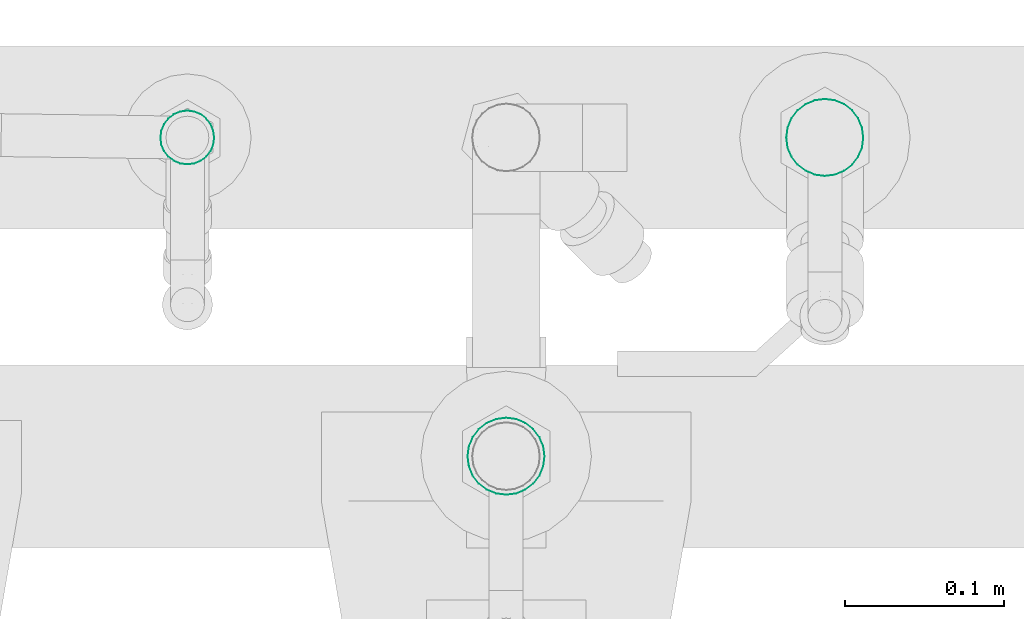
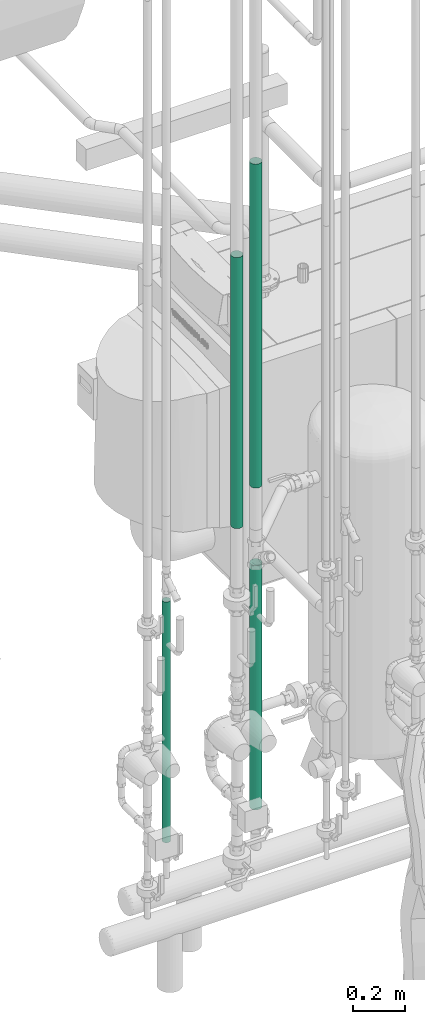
# One storey, part 203 of 374: 4 flow segments.
"""IFC2X3 building model written with IfcOpenShell, lengths in metres."""

from ifc_helpers import new_model, si_unit, direction, origin, place, context, subcontext, project, spatial, open_shell, surface_model, source, transform, mapped, element, save


model = new_model("IFC2X3")

# Units and contexts
model_context = context("Model", 3, precision=1e-05, world=origin(), true_north=direction((-0.4480736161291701, 0.8939966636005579)))
body_context = subcontext(model_context, "Body", "Model", "MODEL_VIEW")
ifc_project = project(units=[si_unit("LENGTHUNIT", "METRE"), si_unit("AREAUNIT", "SQUARE_METRE"), si_unit("VOLUMEUNIT", "CUBIC_METRE"), si_unit("PLANEANGLEUNIT", "RADIAN"), si_unit("THERMODYNAMICTEMPERATUREUNIT", "KELVIN"), si_unit("MASSUNIT", "GRAM", prefix="KILO"), si_unit("TIMEUNIT", "SECOND")], contexts=[model_context])

# Site, building, storey
site_placement = place(None, origin())
site = spatial("IfcSite", under=ifc_project, at=site_placement, Name="Site 1", CompositionType="ELEMENT")
building_placement = place(site_placement, origin())
building = spatial("IfcBuilding", under=site, at=building_placement, Name="Undefined", CompositionType="ELEMENT")
storey_placement = place(building_placement, origin())
storey = spatial("IfcBuildingStorey", under=building, at=storey_placement, Name="Rez de chauss\x8ee", CompositionType="ELEMENT", Elevation=0.0)

# Flow segments
shared_shape_1 = source(origin(), body_context, "Body", "SurfaceModel", [
    surface_model("IfcFaceBasedSurfaceModel", [(0.0, 0.004398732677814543, 0.0), (0.0, 0.0, 0.0), (1.1372338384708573, 8.8817842e-16, 7.105427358e-15), (1.1372338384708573, 0.004398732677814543, 0.0), (0.0, -0.004248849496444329, -0.00113847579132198), (1.1372338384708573, -0.004248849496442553, -0.001138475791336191), (0.0, -0.008058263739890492, -0.003337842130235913), (1.1372338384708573, -0.008058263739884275, -0.003337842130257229), (0.0, -0.01116863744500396, -0.0064482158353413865), (1.1372338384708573, -0.011168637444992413, -0.006448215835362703), (0.0, -0.013368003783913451, -0.010257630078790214), (1.1372338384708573, -0.013368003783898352, -0.010257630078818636), (0.0, -0.014506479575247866, -0.014506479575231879), (1.1372338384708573, -0.014506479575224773, -0.0145064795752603), (0.0, -0.01450647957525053, -0.01890521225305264), (1.1372338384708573, -0.01450647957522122, -0.01890521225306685), (0.0, -0.013368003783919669, -0.023154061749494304), (1.1372338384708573, -0.013368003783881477, -0.023154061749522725), (0.0, -0.011168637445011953, -0.02696347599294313), (1.1372338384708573, -0.011168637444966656, -0.026963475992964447), (0.0, -0.008058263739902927, -0.03007384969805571), (1.1372338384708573, -0.008058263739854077, -0.030073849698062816), (0.0, -0.004248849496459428, -0.03227321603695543), (1.1372338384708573, -0.004248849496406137, -0.03227321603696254), (0.0, -1.5099033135e-14, -0.03341169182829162), (1.1372338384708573, 3.8191672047e-14, -0.03341169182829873), (0.0, 0.00439873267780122, -0.03341169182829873), (1.1372338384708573, 0.004398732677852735, -0.03341169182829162), (0.0, 0.008647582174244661, -0.03227321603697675), (1.1372338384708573, 0.008647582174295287, -0.03227321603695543), (0.0, 0.012456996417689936, -0.030073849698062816), (1.1372338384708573, 0.01245699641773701, -0.0300738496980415), (0.0, 0.01556737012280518, -0.026963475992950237), (1.1372338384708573, 0.015567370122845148, -0.026963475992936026), (0.0, 0.017766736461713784, -0.023154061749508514), (1.1372338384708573, 0.0177667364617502, -0.023154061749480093), (0.0, 0.018905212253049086, -0.01890521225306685), (1.1372338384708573, 0.018905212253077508, -0.018905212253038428), (0.0, 0.018905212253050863, -0.01450647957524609), (1.1372338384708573, 0.018905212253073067, -0.014506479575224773), (0.0, 0.01776673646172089, -0.01025763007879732), (1.1372338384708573, 0.01776673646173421, -0.010257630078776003), (0.0, 0.015567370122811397, -0.006448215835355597), (1.1372338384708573, 0.01556737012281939, -0.006448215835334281), (0.0, 0.012456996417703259, -0.0033378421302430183), (1.1372338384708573, 0.012456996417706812, -0.0033378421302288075), (0.0, 0.00864758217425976, -0.0011384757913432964), (1.1372338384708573, 0.00864758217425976, -0.00113847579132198)], [open_shell([[[0, 1, 2, 3]], [[1, 4, 5, 2]], [[4, 6, 7, 5]], [[6, 8, 9, 7]], [[8, 10, 11, 9]], [[10, 12, 13, 11]], [[12, 14, 15, 13]], [[14, 16, 17, 15]], [[16, 18, 19, 17]], [[18, 20, 21, 19]], [[20, 22, 23, 21]], [[22, 24, 25, 23]], [[24, 26, 27, 25]], [[26, 28, 29, 27]], [[28, 30, 31, 29]], [[30, 32, 33, 31]], [[32, 34, 35, 33]], [[34, 36, 37, 35]], [[36, 38, 39, 37]], [[38, 40, 41, 39]], [[40, 42, 43, 41]], [[42, 44, 45, 43]], [[44, 46, 47, 45]], [[46, 0, 3, 47]]])]),
])
flow_segment_1_placement = place(storey_placement, origin())
element("IfcFlowSegment", 1, at=flow_segment_1_placement, inside=storey, Name="Tube acier d'après DIN 2448", ObjectType="Tube acier d'après DIN 2448", context=body_context, shape_type="MappedRepresentation", body=[
    mapped(shared_shape_1, transform((52.27383786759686, 10.922398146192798, 0.5285500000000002), x_axis=(0.0, 0.0, 1.0), y_axis=(0.13052619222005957, -0.9914448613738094, 0.0), z_axis=(0.9914448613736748, 0.13052619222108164, 0.0))),
])
shared_shape_2 = source(origin(), body_context, "Body", "SurfaceModel", [
    surface_model("IfcFaceBasedSurfaceModel", [(0.0, 0.006304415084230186, 7.105427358e-15), (0.0, 0.0, 0.0), (1.1545185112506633, 0.0, 0.0), (1.1545185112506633, 0.006304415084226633, 0.0), (0.0, -0.006089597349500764, -0.0016317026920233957), (1.1545185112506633, -0.0060895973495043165, -0.0016317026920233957), (0.0, -0.011549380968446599, -0.004783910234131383), (1.1545185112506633, -0.011549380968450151, -0.004783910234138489), (0.0, -0.016007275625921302, -0.009241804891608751), (1.1545185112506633, -0.01600727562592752, -0.009241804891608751), (0.0, -0.01915948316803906, -0.014701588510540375), (1.1545185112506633, -0.019159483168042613, -0.01470158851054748), (0.0, -0.020791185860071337, -0.020791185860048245), (1.1545185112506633, -0.020791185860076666, -0.020791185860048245), (0.0, -0.020791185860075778, -0.027095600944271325), (1.1545185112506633, -0.02079118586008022, -0.02709560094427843), (0.0, -0.01915948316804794, -0.03318519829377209), (1.1545185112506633, -0.01915948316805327, -0.033185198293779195), (0.0, -0.01600727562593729, -0.038644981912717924), (1.1545185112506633, -0.01600727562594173, -0.038644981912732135), (0.0, -0.011549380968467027, -0.0431028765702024), (1.1545185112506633, -0.01154938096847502, -0.0431028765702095), (0.0, -0.006089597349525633, -0.04625508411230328), (1.1545185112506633, -0.0060895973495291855, -0.046255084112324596), (0.0, -2.4868995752e-14, -0.04788678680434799), (1.1545185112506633, -2.842170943e-14, -0.0478867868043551), (0.0, 0.006304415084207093, -0.047886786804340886), (1.1545185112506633, 0.006304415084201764, -0.0478867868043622), (0.0, 0.012394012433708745, -0.046255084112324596), (1.1545185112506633, 0.01239401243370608, -0.04625508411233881), (0.0, 0.01785379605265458, -0.0431028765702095), (1.1545185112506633, 0.017853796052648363, -0.043102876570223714), (0.0, 0.022311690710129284, -0.03864498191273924), (1.1545185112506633, 0.02231169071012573, -0.038644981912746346), (0.0, 0.02546389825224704, -0.03318519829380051), (1.1545185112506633, 0.025463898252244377, -0.033185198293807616), (0.0, 0.02709560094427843, -0.027095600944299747), (1.1545185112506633, 0.027095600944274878, -0.027095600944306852), (0.0, 0.02709560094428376, -0.02079118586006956), (1.1545185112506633, 0.027095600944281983, -0.020791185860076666), (0.0, 0.025463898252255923, -0.014701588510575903), (1.1545185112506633, 0.025463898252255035, -0.014701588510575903), (0.0, 0.02231169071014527, -0.009241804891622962), (1.1545185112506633, 0.022311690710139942, -0.009241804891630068), (0.0, 0.01785379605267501, -0.004783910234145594), (1.1545185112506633, 0.017853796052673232, -0.0047839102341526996), (0.0, 0.012394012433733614, -0.0016317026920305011), (1.1545185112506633, 0.012394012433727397, -0.0016317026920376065)], [open_shell([[[0, 1, 2, 3]], [[1, 4, 5, 2]], [[4, 6, 7, 5]], [[6, 8, 9, 7]], [[8, 10, 11, 9]], [[10, 12, 13, 11]], [[12, 14, 15, 13]], [[14, 16, 17, 15]], [[16, 18, 19, 17]], [[18, 20, 21, 19]], [[20, 22, 23, 21]], [[22, 24, 25, 23]], [[24, 26, 27, 25]], [[26, 28, 29, 27]], [[28, 30, 31, 29]], [[30, 32, 33, 31]], [[32, 34, 35, 33]], [[34, 36, 37, 35]], [[36, 38, 39, 37]], [[38, 40, 41, 39]], [[40, 42, 43, 41]], [[42, 44, 45, 43]], [[44, 46, 47, 45]], [[46, 0, 3, 47]]])]),
])
flow_segment_2_placement = place(storey_placement, origin())
element("IfcFlowSegment", 2, at=flow_segment_2_placement, inside=storey, Name="Tube acier d'après DIN 2448", ObjectType="Tube acier d'après DIN 2448", context=body_context, shape_type="MappedRepresentation", body=[
    mapped(shared_shape_2, transform((52.63423490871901, 10.924287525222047, 1.7034685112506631), x_axis=(0.0, 0.0, -1.0), y_axis=(-0.13052619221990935, -0.9914448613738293, 0.0), z_axis=(-0.9914448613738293, 0.13052619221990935, 0.0))),
])
shared_shape_3 = source(origin(), body_context, "Body", "SurfaceModel", [
    surface_model("IfcFaceBasedSurfaceModel", [(0.0, 0.006304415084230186, 7.105427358e-15), (0.0, 0.0, 0.0), (1.2806734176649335, 8.8817842e-16, 0.0), (1.2806734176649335, 0.006304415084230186, 7.105427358e-15), (0.0, -0.006089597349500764, -0.0016317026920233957), (1.2806734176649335, -0.006089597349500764, -0.0016317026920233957), (0.0, -0.011549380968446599, -0.004783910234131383), (1.2806734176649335, -0.011549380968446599, -0.004783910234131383), (0.0, -0.016007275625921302, -0.009241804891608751), (1.2806734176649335, -0.016007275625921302, -0.009241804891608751), (0.0, -0.01915948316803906, -0.014701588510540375), (1.2806734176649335, -0.01915948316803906, -0.014701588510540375), (0.0, -0.020791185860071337, -0.020791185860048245), (1.2806734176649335, -0.020791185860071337, -0.020791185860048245), (0.0, -0.020791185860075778, -0.027095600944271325), (1.2806734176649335, -0.020791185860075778, -0.027095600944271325), (0.0, -0.01915948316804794, -0.03318519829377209), (1.2806734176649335, -0.01915948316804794, -0.03318519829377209), (0.0, -0.01600727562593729, -0.038644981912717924), (1.2806734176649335, -0.01600727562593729, -0.038644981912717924), (0.0, -0.011549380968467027, -0.0431028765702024), (1.2806734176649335, -0.011549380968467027, -0.0431028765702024), (0.0, -0.006089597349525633, -0.04625508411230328), (1.2806734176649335, -0.006089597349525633, -0.04625508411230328), (0.0, -2.4868995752e-14, -0.04788678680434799), (1.2806734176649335, -2.4868995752e-14, -0.04788678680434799), (0.0, 0.006304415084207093, -0.047886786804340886), (1.2806734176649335, 0.006304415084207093, -0.047886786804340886), (0.0, 0.012394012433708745, -0.046255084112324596), (1.2806734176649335, 0.012394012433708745, -0.046255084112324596), (0.0, 0.01785379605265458, -0.0431028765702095), (1.2806734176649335, 0.01785379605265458, -0.0431028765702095), (0.0, 0.022311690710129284, -0.03864498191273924), (1.2806734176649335, 0.022311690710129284, -0.03864498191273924), (0.0, 0.02546389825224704, -0.03318519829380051), (1.2806734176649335, 0.02546389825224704, -0.03318519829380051), (0.0, 0.02709560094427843, -0.027095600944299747), (1.2806734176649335, 0.02709560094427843, -0.027095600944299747), (0.0, 0.02709560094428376, -0.02079118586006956), (1.2806734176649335, 0.02709560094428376, -0.02079118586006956), (0.0, 0.025463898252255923, -0.014701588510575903), (1.2806734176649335, 0.025463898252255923, -0.014701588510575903), (0.0, 0.02231169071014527, -0.009241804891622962), (1.2806734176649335, 0.02231169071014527, -0.009241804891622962), (0.0, 0.01785379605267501, -0.004783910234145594), (1.2806734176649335, 0.01785379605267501, -0.004783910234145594), (0.0, 0.012394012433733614, -0.0016317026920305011), (1.2806734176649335, 0.012394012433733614, -0.0016317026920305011)], [open_shell([[[0, 1, 2, 3]], [[1, 4, 5, 2]], [[4, 6, 7, 5]], [[6, 8, 9, 7]], [[8, 10, 11, 9]], [[10, 12, 13, 11]], [[12, 14, 15, 13]], [[14, 16, 17, 15]], [[16, 18, 19, 17]], [[18, 20, 21, 19]], [[20, 22, 23, 21]], [[22, 24, 25, 23]], [[24, 26, 27, 25]], [[26, 28, 29, 27]], [[28, 30, 31, 29]], [[30, 32, 33, 31]], [[32, 34, 35, 33]], [[34, 36, 37, 35]], [[36, 38, 39, 37]], [[38, 40, 41, 39]], [[40, 42, 43, 41]], [[42, 44, 45, 43]], [[44, 46, 47, 45]], [[46, 0, 3, 47]]])]),
])
flow_segment_3_placement = place(storey_placement, origin())
element("IfcFlowSegment", 3, at=flow_segment_3_placement, inside=storey, Name="Tube acier d'après DIN 2448", ObjectType="Tube acier d'après DIN 2448", context=body_context, shape_type="MappedRepresentation", body=[
    mapped(shared_shape_3, transform((52.48088912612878, 10.724287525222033, 2.0695279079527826), x_axis=(0.0, 0.0, 1.0), y_axis=(0.13052619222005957, -0.9914448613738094, 0.0), z_axis=(0.9914448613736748, 0.13052619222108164, 0.0))),
])
shared_shape_4 = source(origin(), body_context, "Body", "SurfaceModel", [
    surface_model("IfcFaceBasedSurfaceModel", [(0.0, 0.006304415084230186, 7.105427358e-15), (0.0, 0.0, 0.0), (1.5304720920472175, 8.8817842e-16, 7.105427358e-15), (1.5304720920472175, 0.00630441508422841, 0.0), (0.0, -0.006089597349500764, -0.0016317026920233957), (1.5304720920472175, -0.006089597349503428, -0.0016317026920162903), (0.0, -0.011549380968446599, -0.004783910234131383), (1.5304720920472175, -0.011549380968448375, -0.004783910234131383), (0.0, -0.016007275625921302, -0.009241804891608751), (1.5304720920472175, -0.016007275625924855, -0.009241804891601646), (0.0, -0.01915948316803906, -0.014701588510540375), (1.5304720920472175, -0.019159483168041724, -0.01470158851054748), (0.0, -0.020791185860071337, -0.020791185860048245), (1.5304720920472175, -0.02079118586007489, -0.020791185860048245), (0.0, -0.020791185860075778, -0.027095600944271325), (1.5304720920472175, -0.020791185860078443, -0.02709560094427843), (0.0, -0.01915948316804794, -0.03318519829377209), (1.5304720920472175, -0.019159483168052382, -0.03318519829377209), (0.0, -0.01600727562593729, -0.038644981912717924), (1.5304720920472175, -0.016007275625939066, -0.03864498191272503), (0.0, -0.011549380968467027, -0.0431028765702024), (1.5304720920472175, -0.011549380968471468, -0.0431028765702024), (0.0, -0.006089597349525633, -0.04625508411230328), (1.5304720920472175, -0.006089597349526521, -0.04625508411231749), (0.0, -2.4868995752e-14, -0.04788678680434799), (1.5304720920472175, -2.6645352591e-14, -0.0478867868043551), (0.0, 0.006304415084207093, -0.047886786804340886), (1.5304720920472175, 0.0063044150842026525, -0.0478867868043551), (0.0, 0.012394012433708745, -0.046255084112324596), (1.5304720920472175, 0.012394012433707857, -0.0462550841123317), (0.0, 0.01785379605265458, -0.0431028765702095), (1.5304720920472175, 0.017853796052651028, -0.04310287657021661), (0.0, 0.022311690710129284, -0.03864498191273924), (1.5304720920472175, 0.022311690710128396, -0.03864498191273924), (0.0, 0.02546389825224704, -0.03318519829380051), (1.5304720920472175, 0.025463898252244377, -0.033185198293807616), (0.0, 0.02709560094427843, -0.027095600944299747), (1.5304720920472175, 0.027095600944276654, -0.027095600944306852), (0.0, 0.02709560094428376, -0.02079118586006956), (1.5304720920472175, 0.027095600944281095, -0.020791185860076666), (0.0, 0.025463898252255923, -0.014701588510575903), (1.5304720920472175, 0.025463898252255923, -0.014701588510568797), (0.0, 0.02231169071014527, -0.009241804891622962), (1.5304720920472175, 0.02231169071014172, -0.009241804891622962), (0.0, 0.01785379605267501, -0.004783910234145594), (1.5304720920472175, 0.017853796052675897, -0.004783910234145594), (0.0, 0.012394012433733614, -0.0016317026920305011), (1.5304720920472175, 0.012394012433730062, -0.0016317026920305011)], [open_shell([[[0, 1, 2, 3]], [[1, 4, 5, 2]], [[4, 6, 7, 5]], [[6, 8, 9, 7]], [[8, 10, 11, 9]], [[10, 12, 13, 11]], [[12, 14, 15, 13]], [[14, 16, 17, 15]], [[16, 18, 19, 17]], [[18, 20, 21, 19]], [[20, 22, 23, 21]], [[22, 24, 25, 23]], [[24, 26, 27, 25]], [[26, 28, 29, 27]], [[28, 30, 31, 29]], [[30, 32, 33, 31]], [[32, 34, 35, 33]], [[34, 36, 37, 35]], [[36, 38, 39, 37]], [[38, 40, 41, 39]], [[40, 42, 43, 41]], [[42, 44, 45, 43]], [[44, 46, 47, 45]], [[46, 0, 3, 47]]])]),
])
flow_segment_4_placement = place(storey_placement, origin())
element("IfcFlowSegment", 4, at=flow_segment_4_placement, inside=storey, Name="Tube acier d'après DIN 2448", ObjectType="Tube acier d'après DIN 2448", context=body_context, shape_type="MappedRepresentation", body=[
    mapped(shared_shape_4, transform((52.68088912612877, 10.924287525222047, 2.0695279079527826), x_axis=(0.0, 0.0, 1.0), y_axis=(0.13052619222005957, -0.9914448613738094, 0.0), z_axis=(0.9914448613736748, 0.13052619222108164, 0.0))),
])

save(model, "model.ifc")
